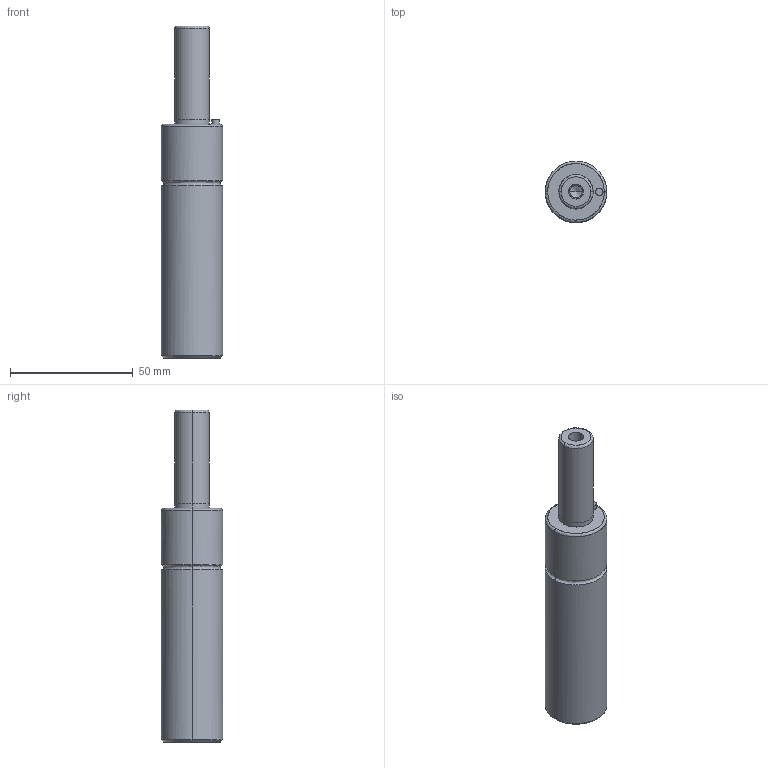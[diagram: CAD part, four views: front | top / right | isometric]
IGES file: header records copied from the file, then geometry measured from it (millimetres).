
Global section: file name: E:\UnigraphicsGraphicData\MISUMI_PRESS-PARTS\IGES\3d_gsm25-38_03949_r00.igs; native system: NX V5.0; preprocessor: UGS NX IGES V5.0; author: MISUMI; date: 20110105.160807; units: millimetre
Bounding box: 25 x 24.97 x 135 mm (x, y, z)
Surface area: 10564.7 mm2 (no closed solid volume)
Topology: 0 solids, 0 shells, 36 faces, 216 edges, 212 vertices
Faces by surface type: bspline 36
